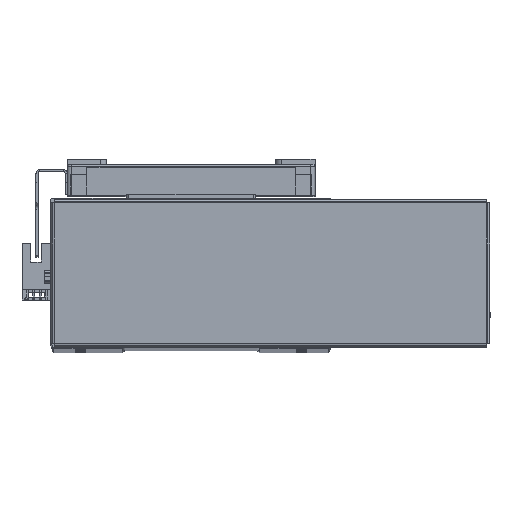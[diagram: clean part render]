
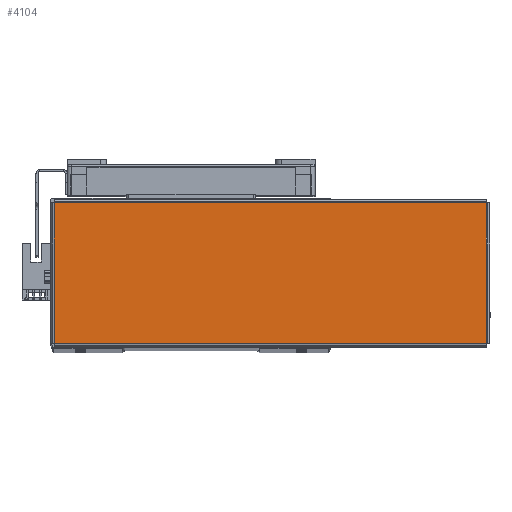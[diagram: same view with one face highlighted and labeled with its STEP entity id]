
A CAD part, top view. The second image highlights one B-rep face of the part: STEP entity #4104.
In plain terms, the highlighted planar face has unit normal (0, 0, 1) as drawn and (0, -1, 0) by its records, which use the part's own axes.
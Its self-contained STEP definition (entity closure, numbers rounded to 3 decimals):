
#3286 = DIRECTION ( 'NONE',  ( 0., 0., 1. ) ) ;
#3296 = CARTESIAN_POINT ( 'NONE',  ( 103.763, -1., -33.793 ) ) ;
#3325 = CARTESIAN_POINT ( 'NONE',  ( -103.763, -1., 33.793 ) ) ;
#3360 = DIRECTION ( 'NONE',  ( 1., 0., 0. ) ) ;
#3366 = CARTESIAN_POINT ( 'NONE',  ( -103.793, -1., -33.763 ) ) ;
#3378 = DIRECTION ( 'NONE',  ( -1., 0., 0. ) ) ;
#3394 = CARTESIAN_POINT ( 'NONE',  ( 103.793, -1., 33.763 ) ) ;
#3411 = DIRECTION ( 'NONE',  ( 0., 0., -1. ) ) ;
#4104 = ADVANCED_FACE ( 'NONE', ( #14983 ), #16916, .F. ) ;
#10799 = VECTOR ( 'NONE', #3286, 1000. ) ;
#10889 = LINE ( 'NONE', #3296, #10799 ) ;
#10956 = VECTOR ( 'NONE', #3360, 1000. ) ;
#10976 = LINE ( 'NONE', #3366, #10956 ) ;
#10977 = VECTOR ( 'NONE', #3411, 1000. ) ;
#10983 = LINE ( 'NONE', #3394, #10996 ) ;
#10996 = VECTOR ( 'NONE', #3378, 1000. ) ;
#11000 = LINE ( 'NONE', #3325, #10977 ) ;
#14485 = EDGE_LOOP ( 'NONE', ( #55216, #55204, #55226, #55218 ) ) ;
#14983 = FACE_OUTER_BOUND ( 'NONE', #14485, .T. ) ;
#15720 = EDGE_CURVE ( 'NONE', #59849, #59787, #10889, .T. ) ;
#15738 = EDGE_CURVE ( 'NONE', #59816, #59849, #10976, .T. ) ;
#15779 = EDGE_CURVE ( 'NONE', #59806, #59816, #11000, .T. ) ;
#15799 = EDGE_CURVE ( 'NONE', #59787, #59806, #10983, .T. ) ;
#16873 = CARTESIAN_POINT ( 'NONE',  ( 0., -1., 0. ) ) ;
#16916 = PLANE ( 'NONE',  #31678 ) ;
#16953 = DIRECTION ( 'NONE',  ( 0., 1., 0. ) ) ;
#16962 = DIRECTION ( 'NONE',  ( 0., 0., 1. ) ) ;
#31678 = AXIS2_PLACEMENT_3D ( 'NONE', #16873, #16953, #16962 ) ;
#51158 = CARTESIAN_POINT ( 'NONE',  ( -103.763, -1., 33.763 ) ) ;
#51178 = CARTESIAN_POINT ( 'NONE',  ( 103.763, -1., -33.763 ) ) ;
#51198 = CARTESIAN_POINT ( 'NONE',  ( 103.763, -1., 33.763 ) ) ;
#51199 = CARTESIAN_POINT ( 'NONE',  ( -103.763, -1., -33.763 ) ) ;
#55204 = ORIENTED_EDGE ( 'NONE', *, *, #15779, .T. ) ;
#55216 = ORIENTED_EDGE ( 'NONE', *, *, #15799, .T. ) ;
#55218 = ORIENTED_EDGE ( 'NONE', *, *, #15720, .T. ) ;
#55226 = ORIENTED_EDGE ( 'NONE', *, *, #15738, .T. ) ;
#59787 = VERTEX_POINT ( 'NONE', #51198 ) ;
#59806 = VERTEX_POINT ( 'NONE', #51158 ) ;
#59816 = VERTEX_POINT ( 'NONE', #51199 ) ;
#59849 = VERTEX_POINT ( 'NONE', #51178 ) ;
